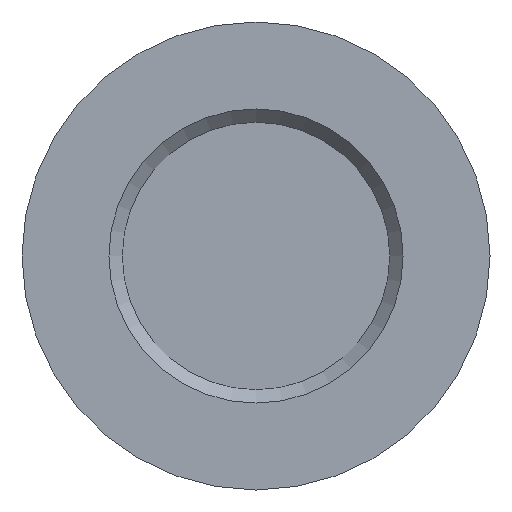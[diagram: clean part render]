
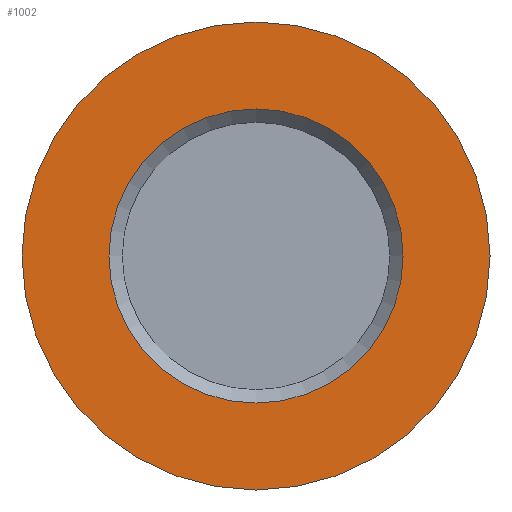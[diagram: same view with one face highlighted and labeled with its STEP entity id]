
A CAD part, front view. The second image highlights one B-rep face of the part: STEP entity #1002.
In plain terms, the highlighted planar face has unit normal (0, -1, 0).
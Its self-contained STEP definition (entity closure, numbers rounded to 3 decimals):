
#239=ORIENTED_EDGE('',*,*,#427,.T.);
#240=ORIENTED_EDGE('',*,*,#428,.F.);
#427=EDGE_CURVE('',#535,#535,#625,.T.);
#428=EDGE_CURVE('',#536,#536,#626,.T.);
#535=VERTEX_POINT('',#1947);
#536=VERTEX_POINT('',#1949);
#625=CIRCLE('',#1403,44.);
#626=CIRCLE('',#1404,70.);
#725=EDGE_LOOP('',(#239));
#726=EDGE_LOOP('',(#240));
#865=FACE_BOUND('',#725,.T.);
#866=FACE_BOUND('',#726,.T.);
#951=PLANE('',#1402);
#1002=ADVANCED_FACE('',(#865,#866),#951,.F.);
#1402=AXIS2_PLACEMENT_3D('',#1945,#1627,#1628);
#1403=AXIS2_PLACEMENT_3D('',#1946,#1629,#1630);
#1404=AXIS2_PLACEMENT_3D('',#1948,#1631,#1632);
#1627=DIRECTION('',(0.,1.,0.));
#1628=DIRECTION('',(0.,0.,1.));
#1629=DIRECTION('',(0.,1.,0.));
#1630=DIRECTION('',(0.,0.,1.));
#1631=DIRECTION('',(0.,1.,0.));
#1632=DIRECTION('',(0.,0.,1.));
#1945=CARTESIAN_POINT('',(0.,0.,0.));
#1946=CARTESIAN_POINT('',(0.,0.,0.));
#1947=CARTESIAN_POINT('',(0.,0.,44.));
#1948=CARTESIAN_POINT('',(0.,0.,0.));
#1949=CARTESIAN_POINT('',(0.,0.,70.));
